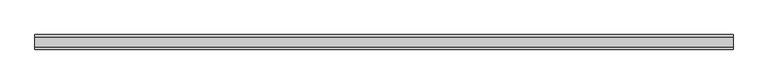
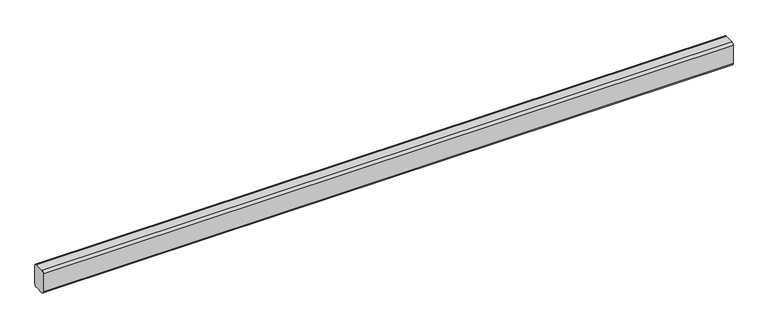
"""IFC4 building model written with IfcOpenShell, lengths in millimetres: proxy geometry, GROUTED CMU CELLS_horizontal : GROUTED CMU CELLS_horizontal."""

from ifc_helpers import new_model, si_unit, point, frame, frame_2d, origin, place, context, project, spatial, polyline, circle_curve, trimmed, segment, composite_curve, outline, extrude, source, transform, mapped, element, save


def generic_models_4b94d164(model_context):
    return source(origin(), model_context, "Body", "SweptSolid", [
        extrude(outline(composite_curve([segment(trimmed(circle_curve(frame_2d((34.925, -66.675)), 15.875), [point((50.8, -66.675))], [point((34.925, -82.55))], False, "CARTESIAN"), True, "CONTINUOUS"), segment(polyline([(34.925, -82.55), (-34.925, -82.55)]), True, "CONTINUOUS"), segment(trimmed(circle_curve(frame_2d((-34.925, -66.675)), 15.875), [point((-34.925, -82.55))], [point((-50.8, -66.675))], False, "CARTESIAN"), True, "CONTINUOUS"), segment(polyline([(-50.8, -66.675), (-50.8, 66.675)]), True, "CONTINUOUS"), segment(trimmed(circle_curve(frame_2d((-34.925, 66.675)), 15.875), [point((-50.8, 66.675))], [point((-34.925, 82.55))], False, "CARTESIAN"), True, "CONTINUOUS"), segment(polyline([(-34.925, 82.55), (34.925, 82.55)]), True, "CONTINUOUS"), segment(trimmed(circle_curve(frame_2d((34.925, 66.675)), 15.875), [point((34.925, 82.55))], [point((50.8, 66.675))], False, "CARTESIAN"), True, "CONTINUOUS"), segment(polyline([(50.8, 66.675), (50.8, -66.675)]), True, "CONTINUOUS")], self_intersect=False)), frame((0.0, 0.0, 0.0), z_axis=(1.0, 0.0, 0.0), x_axis=(0.0, 1.0, 0.0)), (0.0, 0.0, 1.0), 4838.7),
    ])


if __name__ == "__main__":
    model = new_model("IFC4")
    model_context = context("Model", 3, world=origin())
    ifc_project = project(units=[si_unit("LENGTHUNIT", "METRE", prefix="MILLI")], contexts=[model_context])
    site = spatial("IfcSite", under=ifc_project)
    building = spatial("IfcBuilding", under=site)
    placement = place(None, origin())
    generic_models_shape = generic_models_4b94d164(model_context)
    element("IfcBuildingElementProxy", 1, Name="GROUTED CMU CELLS_horizontal : GROUTED CMU CELLS_horizontal", ObjectType="GROUTED CMU CELLS_horizontal : GROUTED CMU CELLS_horizontal", at=placement, inside=building, context=model_context, shape_type="MappedRepresentation", body=[
        mapped(generic_models_shape, transform((0.0, 0.0, 0.0), x_axis=(1.0, 0.0, 0.0), y_axis=(0.0, 1.0, 0.0), z_axis=(0.0, 0.0, 1.0))),
    ])
    save(model, "model.ifc")
